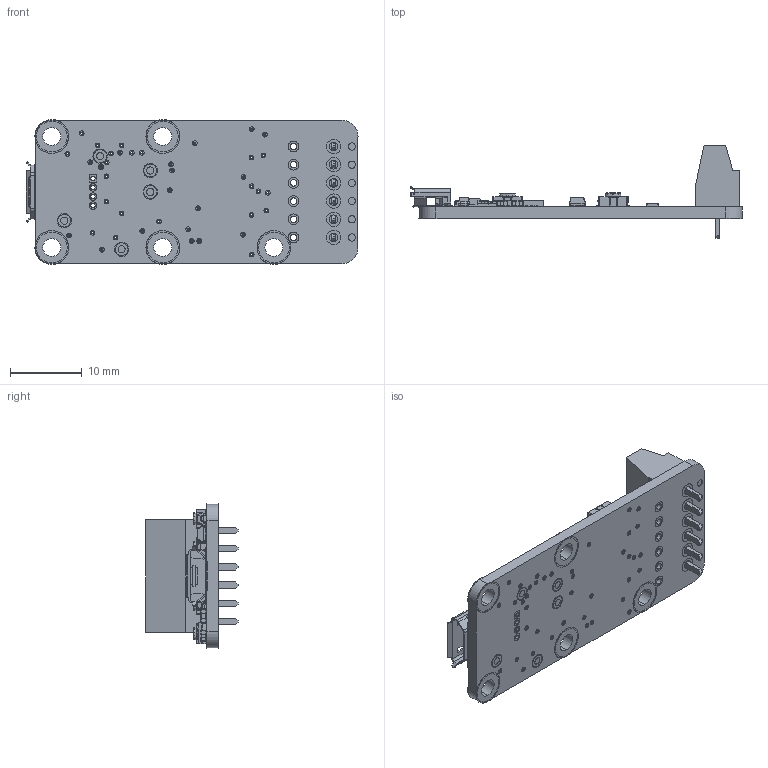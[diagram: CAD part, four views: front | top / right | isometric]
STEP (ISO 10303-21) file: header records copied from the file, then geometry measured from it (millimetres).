
FILE_DESCRIPTION (( 'STEP AP214' ), '1' );
FILE_NAME ('yoctobuttons1.STEP', '2014-01-28T10:03:24', ( 'martinm' ), ( '' ), 'SwSTEP 2.0', 'SolidWorks 2008', '' );
FILE_SCHEMA (( 'AUTOMOTIVE_DESIGN' ));
Length unit declared in the file: millimetre
Products named in the file (21): yoctobuttons1OutLine; C0603C682K5RACTU; GRM188F51E104ZA01D; GRM188R61C225KE15D; GRM188R60J105KA01D; GRM219F51C105ZA01D; ASMT-TGBM-NT502; 1725698; CRCW060310K0JNEB; WSLP0603R0100FEA; CRCW0603100KJNEA; RK73H1JTTD4702F; RK73H1JTTD1242F; CRCW0603100RJNEB; MCP1703T-3302E_CB; KMR211NGLFS; PIC24FJ64GB002-I_ML; ZX62-B-5PA(11); ASMT-TBBM-NP902; FAN4010IL6X_F113; yoctobuttons1
Assembly tree (37 placements, depth 2):
  yoctobuttons1
    MCP1703T-3302E_CB
    KMR211NGLFS  x6
    RK73H1JTTD1242F  x6
    CRCW0603100KJNEA
    CRCW0603100RJNEB
    C0603C682K5RACTU
    ASMT-TGBM-NT502  x5
    CRCW060310K0JNEB
    GRM188F51E104ZA01D  x4
    GRM219F51C105ZA01D
    WSLP0603R0100FEA
    RK73H1JTTD4702F
    ZX62-B-5PA(11)
    GRM188R60J105KA01D
    ASMT-TBBM-NP902
    PIC24FJ64GB002-I_ML
    FAN4010IL6X_F113
    yoctobuttons1OutLine
    GRM188R61C225KE15D
    1725698
Bounding box: 46.35 x 12.9 x 20.2 mm (x, y, z)
Volume: 2235 mm3; surface area: 3909.4 mm2
Topology: 70 solids, 70 shells, 5367 faces, 13808 edges, 8975 vertices
Faces by surface type: plane 3521, cylinder 1402, bspline 338, sphere 64, torus 42
Entity records: 162029 total; most frequent: CARTESIAN_POINT 33844, ORIENTED_EDGE 19090, DIRECTION 18350, EDGE_CURVE 9545, LINE 6848, VECTOR 6848, VERTEX_POINT 6270, AXIS2_PLACEMENT_3D 5751
